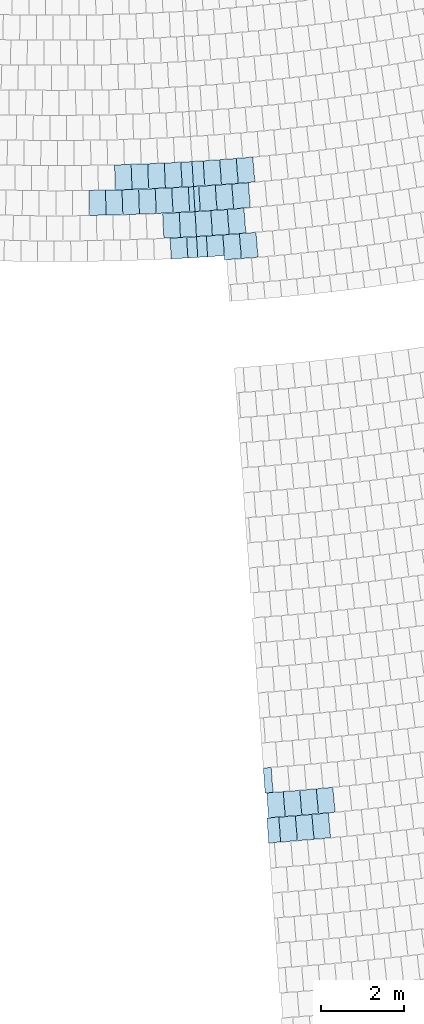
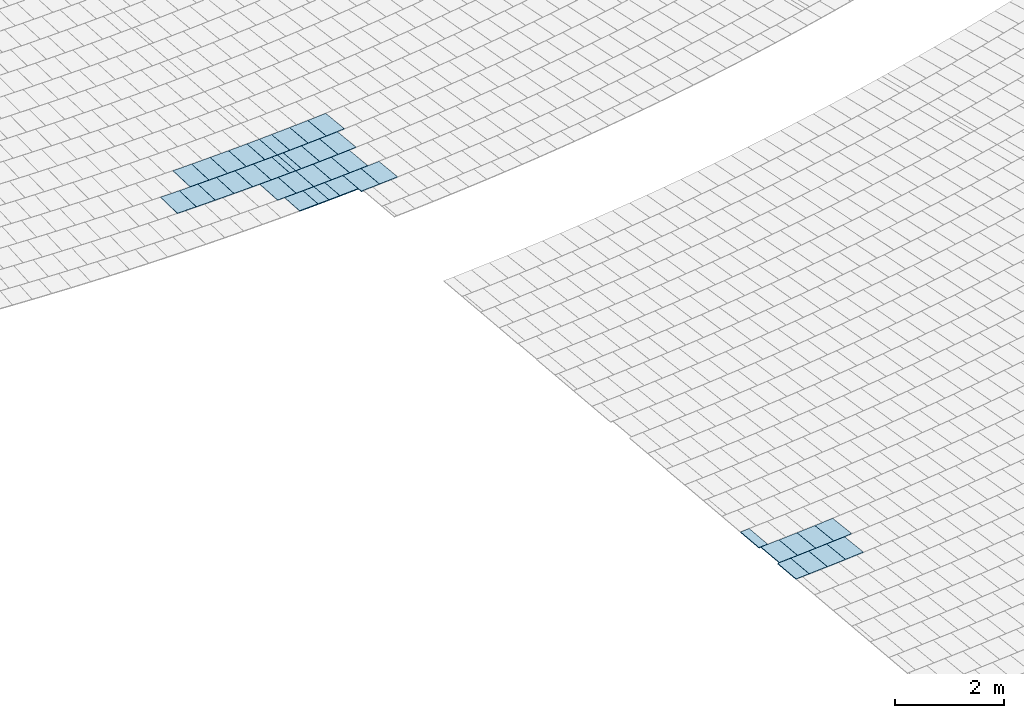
# One storey, part 39 of 438: 40 slabs.
"""IFC2X3 building model written with IfcOpenShell, lengths in millimetres."""

from ifc_helpers import new_model, entity, si_unit, converted_unit, derived_unit, direction, frame, frame_2d, origin, place, context, subcontext, project, spatial, polyline, rectangle, outline, extrude, material, layer, layer_set, layer_usage, type_object, element, save


model = new_model("IFC2X3")

# Units and contexts
model_context = context("Model", 3, precision=0.01, world=origin(), true_north=direction((6.123031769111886e-17, 1.0)))
body_context = subcontext(model_context, "Body", "Model", "MODEL_VIEW")
ifc_project = project(units=[si_unit("LENGTHUNIT", "METRE", prefix="MILLI"), si_unit("AREAUNIT", "SQUARE_METRE"), si_unit("VOLUMEUNIT", "CUBIC_METRE"), converted_unit("PLANEANGLEUNIT", "DEGREE", entity("IfcRatioMeasure", 0.017453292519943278), si_unit("PLANEANGLEUNIT", "RADIAN"), dimensions=[0, 0, 0, 0, 0, 0, 0]), si_unit("MASSUNIT", "GRAM", prefix="KILO"), derived_unit("MASSDENSITYUNIT", [(si_unit("MASSUNIT", "GRAM", prefix="KILO"), 1), (si_unit("LENGTHUNIT", "METRE"), -3)]), derived_unit("MOMENTOFINERTIAUNIT", [(si_unit("LENGTHUNIT", "METRE"), 4)]), si_unit("TIMEUNIT", "SECOND"), si_unit("FREQUENCYUNIT", "HERTZ"), si_unit("THERMODYNAMICTEMPERATUREUNIT", "DEGREE_CELSIUS"), derived_unit("THERMALTRANSMITTANCEUNIT", [(si_unit("MASSUNIT", "GRAM", prefix="KILO"), 1), (si_unit("THERMODYNAMICTEMPERATUREUNIT", "KELVIN"), -1), (si_unit("TIMEUNIT", "SECOND"), -3)]), derived_unit("THERMALCONDUCTANCEUNIT", [(si_unit("MASSUNIT", "GRAM", prefix="KILO"), 1), (si_unit("LENGTHUNIT", "METRE"), 1), (si_unit("THERMODYNAMICTEMPERATUREUNIT", "KELVIN"), -1), (si_unit("TIMEUNIT", "SECOND"), -3)]), derived_unit("VOLUMETRICFLOWRATEUNIT", [(si_unit("LENGTHUNIT", "METRE"), 3), (si_unit("TIMEUNIT", "SECOND"), -1)]), derived_unit("MASSFLOWRATEUNIT", [(si_unit("MASSUNIT", "GRAM", prefix="KILO"), 1), (si_unit("TIMEUNIT", "SECOND"), -1)]), derived_unit("ROTATIONALFREQUENCYUNIT", [(si_unit("TIMEUNIT", "SECOND"), -1)]), si_unit("ELECTRICCURRENTUNIT", "AMPERE"), si_unit("ELECTRICVOLTAGEUNIT", "VOLT"), si_unit("POWERUNIT", "WATT"), converted_unit("FORCEUNIT", "KIP", entity("IfcRatioMeasure", 2.088543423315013e-05), si_unit("FORCEUNIT", "NEWTON"), dimensions=[1, 1, -2, 0, 0, 0, 0]), si_unit("ILLUMINANCEUNIT", "LUX"), si_unit("LUMINOUSFLUXUNIT", "LUMEN"), si_unit("LUMINOUSINTENSITYUNIT", "CANDELA"), derived_unit("USERDEFINED", [(si_unit("MASSUNIT", "GRAM", prefix="KILO"), -1), (si_unit("LENGTHUNIT", "METRE"), -2), (si_unit("TIMEUNIT", "SECOND"), 3), (si_unit("LUMINOUSFLUXUNIT", "LUMEN"), 1)]), derived_unit("USERDEFINED", [(si_unit("MASSUNIT", "GRAM", prefix="KILO"), 1), (si_unit("LENGTHUNIT", "METRE"), 3), (si_unit("TIMEUNIT", "SECOND"), -3), (si_unit("ELECTRICCURRENTUNIT", "AMPERE"), -2)]), derived_unit("USERDEFINED", [(si_unit("LENGTHUNIT", "METRE"), 2), (si_unit("TIMEUNIT", "SECOND"), -2)]), derived_unit("SOUNDPOWERUNIT", [(si_unit("MASSUNIT", "GRAM", prefix="KILO"), 1), (si_unit("LENGTHUNIT", "METRE"), 2), (si_unit("TIMEUNIT", "SECOND"), -3)]), derived_unit("SOUNDPRESSUREUNIT", [(si_unit("MASSUNIT", "GRAM", prefix="KILO"), 1), (si_unit("LENGTHUNIT", "METRE"), -1), (si_unit("TIMEUNIT", "SECOND"), -2)]), derived_unit("LINEARVELOCITYUNIT", [(si_unit("LENGTHUNIT", "METRE"), 1), (si_unit("TIMEUNIT", "SECOND"), -1)]), si_unit("PRESSUREUNIT", "PASCAL"), derived_unit("USERDEFINED", [(si_unit("LENGTHUNIT", "METRE"), -2), (si_unit("MASSUNIT", "GRAM", prefix="KILO"), 1), (si_unit("TIMEUNIT", "SECOND"), -2)]), derived_unit("LINEARFORCEUNIT", [(si_unit("MASSUNIT", "GRAM", prefix="KILO"), 1), (si_unit("LENGTHUNIT", "METRE"), 1), (si_unit("TIMEUNIT", "SECOND"), -2), (si_unit("LENGTHUNIT", "METRE"), -1)]), derived_unit("PLANARFORCEUNIT", [(si_unit("MASSUNIT", "GRAM", prefix="KILO"), 1), (si_unit("LENGTHUNIT", "METRE"), 1), (si_unit("TIMEUNIT", "SECOND"), -2), (si_unit("LENGTHUNIT", "METRE"), -2)]), derived_unit("SPECIFICHEATCAPACITYUNIT", [(si_unit("LENGTHUNIT", "METRE"), 2), (si_unit("TIMEUNIT", "SECOND"), -2), (si_unit("THERMODYNAMICTEMPERATUREUNIT", "KELVIN"), -1)]), derived_unit("VAPORPERMEABILITYUNIT", [(si_unit("TIMEUNIT", "SECOND"), 1), (si_unit("LENGTHUNIT", "METRE"), -1)]), derived_unit("DYNAMICVISCOSITYUNIT", [(si_unit("MASSUNIT", "GRAM", prefix="KILO"), 1), (si_unit("LENGTHUNIT", "METRE"), -1), (si_unit("TIMEUNIT", "SECOND"), -1)]), derived_unit("THERMALEXPANSIONCOEFFICIENTUNIT", [(si_unit("THERMODYNAMICTEMPERATUREUNIT", "KELVIN"), -1)])], contexts=[model_context])

# Site, building, storey
site_placement = place(None, frame((0.0, 0.0, 0.0), z_axis=(0.0, 0.0, 1.0), x_axis=(0.8191520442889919, 0.5735764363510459, 0.0)))
site = spatial("IfcSite", under=ifc_project, at=site_placement, Name="Default", CompositionType="ELEMENT")
building_placement = place(site_placement, origin())
building = spatial("IfcBuilding", under=site, at=building_placement, CompositionType="ELEMENT")
storey_placement = place(building_placement, origin())
storey = spatial("IfcBuildingStorey", under=building, at=storey_placement, Name="PLAN", CompositionType="ELEMENT", Elevation=0.0)

# Slabs
ifc_material = material(Name="Paint-01")
ifc_layer = layer(ifc_material, 20.00000000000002)
ifc_layer_set = layer_set([ifc_layer], Name="Floor:Slab-179:1000")
ifc_layer_usage = layer_usage(ifc_layer_set, "AXIS3", "POSITIVE", 0.0)
slab_type = type_object("IfcSlabType", Name="Floor:Slab-179:1000", PredefinedType="FLOOR", material=ifc_layer_set)
slab_1_placement = place(storey_placement, origin())
element("IfcSlab", 1, at=slab_1_placement, inside=storey, type_object=slab_type, material=ifc_layer_usage, Name="Floor:Slab-179:1000", ObjectType="Floor:Slab-179:1000", PredefinedType="FLOOR", context=body_context, shape_type="SweptSolid", body=[
    extrude(outline(polyline([(-300.00000076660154, -143.99511928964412), (299.99999923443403, -143.9951192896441), (300.00000076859, 144.3664122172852), (-299.9999992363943, 143.62382636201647), (-300.00000076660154, -143.99511928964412)])), frame((-76675.12581954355, -129045.55431119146, 20.0), z_axis=(0.0, 0.0, -1.0), x_axis=(-0.512006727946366, -0.8589814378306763, 0.0)), (0.0, 0.0, 1.0), 20.00000000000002),
])
slab_2_placement = place(storey_placement, origin())
element("IfcSlab", 2, at=slab_2_placement, inside=storey, type_object=slab_type, material=ifc_layer_usage, Name="Floor:Slab-179:1000", ObjectType="Floor:Slab-179:1000", PredefinedType="FLOOR", context=body_context, shape_type="SweptSolid", body=[
    extrude(outline(polyline([(-300.0000010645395, -200.00000294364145), (299.9999989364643, -200.0000029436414), (300.000001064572, 200.0000029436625), (-299.9999989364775, 200.00000294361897), (-300.0000010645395, -200.00000294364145)])), frame((-76377.60611850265, -129221.57358170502, 20.0), z_axis=(0.0, 0.0, -1.0), x_axis=(-0.5071452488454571, -0.8618606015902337, 0.0)), (0.0, 0.0, 1.0), 20.000000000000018),
])
slab_3_placement = place(storey_placement, origin())
element("IfcSlab", 3, at=slab_3_placement, inside=storey, type_object=slab_type, material=ifc_layer_usage, Name="Floor:Slab-179:1000", ObjectType="Floor:Slab-179:1000", PredefinedType="FLOOR", context=body_context, shape_type="SweptSolid", body=[
    extrude(outline(polyline([(-300.00000106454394, -200.00000294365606), (299.9999989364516, -200.00000294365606), (300.00000106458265, 200.00000294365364), (-299.9999989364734, 200.0000029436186), (-300.00000106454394, -200.00000294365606)])), frame((-76030.82824206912, -129424.31164544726, 20.0), z_axis=(0.0, 0.0, -1.0), x_axis=(-0.5022675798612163, -0.8647122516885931, 0.0)), (0.0, 0.0, 1.0), 20.00000000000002),
])
slab_4_placement = place(storey_placement, origin())
element("IfcSlab", 4, at=slab_4_placement, inside=storey, type_object=slab_type, material=ifc_layer_usage, Name="Floor:Slab-179:1000", ObjectType="Floor:Slab-179:1000", PredefinedType="FLOOR", context=body_context, shape_type="SweptSolid", body=[
    extrude(outline(polyline([(-300.00000106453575, -200.00000294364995), (299.99999893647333, -200.00000294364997), (300.000001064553, 200.00000294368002), (-299.9999989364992, 200.00000294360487), (-300.00000106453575, -200.00000294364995)])), frame((-75682.91041626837, -129625.08715332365, 20.0), z_axis=(0.0, 0.0, -1.0), x_axis=(-0.49737387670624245, -0.8675362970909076, 0.0)), (0.0, 0.0, 1.0), 20.00000000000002),
])
slab_5_placement = place(storey_placement, origin())
element("IfcSlab", 5, at=slab_5_placement, inside=storey, type_object=slab_type, material=ifc_layer_usage, Name="Floor:Slab-179:1000", ObjectType="Floor:Slab-179:1000", PredefinedType="FLOOR", context=body_context, shape_type="SweptSolid", body=[
    extrude(outline(polyline([(-300.0000010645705, -200.00000294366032), (299.99999893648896, -200.00000294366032), (300.0000010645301, 200.0000029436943), (-299.99999893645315, 200.0000029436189), (-300.0000010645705, -200.00000294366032)])), frame((-76282.13732261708, -128575.28472836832, 20.0), z_axis=(0.0, 0.0, -1.0), x_axis=(-0.5101436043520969, -0.8600892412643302, 0.0)), (0.0, 0.0, 1.0), 20.00000000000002),
])
slab_6_placement = place(storey_placement, origin())
element("IfcSlab", 6, at=slab_6_placement, inside=storey, type_object=slab_type, material=ifc_layer_usage, Name="Floor:Slab-179:1000", ObjectType="Floor:Slab-179:1000", PredefinedType="FLOOR", context=body_context, shape_type="SweptSolid", body=[
    extrude(rectangle(XDim=599.9999621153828, YDim=399.99998063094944, at=frame_2d((7.503331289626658e-12, -4.334310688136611e-12), x_axis=(1.0, 0.0))), frame((-75588.7493896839, -128981.31093036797, 20.0), z_axis=(0.0, 0.0, -1.0), x_axis=(-0.5000000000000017, -0.8660254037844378, 0.0)), (0.0, 0.0, 1.0), 20.000000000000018),
])
slab_7_placement = place(storey_placement, origin())
element("IfcSlab", 7, at=slab_7_placement, inside=storey, type_object=slab_type, material=ifc_layer_usage, Name="Floor:Slab-179:1000", ObjectType="Floor:Slab-179:1000", PredefinedType="FLOOR", context=body_context, shape_type="SweptSolid", body=[
    extrude(outline(polyline([(-300.0000010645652, -200.00000294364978), (299.9999989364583, -200.00000294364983), (300.0000010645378, 200.00000294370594), (-299.99999893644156, 200.00000294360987), (-300.0000010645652, -200.00000294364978)])), frame((-75936.0500552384, -128779.2281936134, 20.0), z_axis=(0.0, 0.0, -1.0), x_axis=(-0.5052338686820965, -0.8629824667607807, 0.0)), (0.0, 0.0, 1.0), 20.00000000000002),
])
slab_8_placement = place(storey_placement, origin())
element("IfcSlab", 8, at=slab_8_placement, inside=storey, type_object=slab_type, material=ifc_layer_usage, Name="Floor:Slab-179:1000", ObjectType="Floor:Slab-179:1000", PredefinedType="FLOOR", context=body_context, shape_type="SweptSolid", body=[
    extrude(outline(polyline([(-300.00000106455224, -200.00000294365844), (299.99999893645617, -200.00000294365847), (300.00000106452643, 200.00000294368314), (-299.99999893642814, 200.00000294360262), (-300.00000106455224, -200.00000294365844)])), frame((-75240.41697558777, -129181.18181338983, 20.0), z_axis=(0.0, 0.0, -1.0), x_axis=(-0.49536533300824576, -0.8686847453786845, 0.0)), (0.0, 0.0, 1.0), 20.00000000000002),
])
slab_9_placement = place(storey_placement, origin())
element("IfcSlab", 9, at=slab_9_placement, inside=storey, type_object=slab_type, material=ifc_layer_usage, Name="Floor:Slab-179:1000", ObjectType="Floor:Slab-179:1000", PredefinedType="FLOOR", context=body_context, shape_type="SweptSolid", body=[
    extrude(outline(polyline([(-300.0, -95.18390322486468), (300.0, -95.1839032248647), (300.0, 95.14255445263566), (-300.0, 95.22525199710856), (-300.0, -95.18390322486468)])), frame((-76096.27923104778, -127982.0288969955, 20.0), z_axis=(0.0, 0.0, -1.0), x_axis=(-0.5131877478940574, -0.8582763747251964, 0.0)), (0.0, 0.0, 1.0), 20.000000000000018),
])
slab_10_placement = place(storey_placement, origin())
element("IfcSlab", 10, at=slab_10_placement, inside=storey, type_object=slab_type, material=ifc_layer_usage, Name="Floor:Slab-179:1000", ObjectType="Floor:Slab-179:1000", PredefinedType="FLOOR", context=body_context, shape_type="SweptSolid", body=[
    extrude(outline(polyline([(-300.0, -200.00000294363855), (299.9999976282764, -200.00000294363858), (300.0, 200.0000029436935), (-299.9999976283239, 200.00000294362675), (-300.0, -200.00000294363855)])), frame((-68793.4925424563, -115203.38254930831, 520.0), z_axis=(0.0, 0.0, -1.0), x_axis=(-0.5160663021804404, -0.856548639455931, 0.0)), (0.0, 0.0, 1.0), 20.000000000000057),
])
slab_11_placement = place(storey_placement, origin())
element("IfcSlab", 11, at=slab_11_placement, inside=storey, type_object=slab_type, material=ifc_layer_usage, Name="Floor:Slab-179:1000", ObjectType="Floor:Slab-179:1000", PredefinedType="FLOOR", context=body_context, shape_type="SweptSolid", body=[
    extrude(outline(polyline([(-300.0, -200.00000294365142), (299.99999762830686, -200.00000294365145), (300.0, 200.00000294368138), (-299.99999762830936, 200.0000029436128), (-300.0, -200.00000294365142)])), frame((-68101.50850288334, -115613.45377161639, 520.0), z_axis=(0.0, 0.0, -1.0), x_axis=(-0.5035235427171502, -0.8639815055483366, 0.0)), (0.0, 0.0, 1.0), 20.000000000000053),
])
slab_12_placement = place(storey_placement, origin())
element("IfcSlab", 12, at=slab_12_placement, inside=storey, type_object=slab_type, material=ifc_layer_usage, Name="Floor:Slab-179:1000", ObjectType="Floor:Slab-179:1000", PredefinedType="FLOOR", context=body_context, shape_type="SweptSolid", body=[
    extrude(outline(polyline([(-300.0, -200.00000294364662), (299.9999976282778, -200.00000294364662), (300.0, 200.00000294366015), (-299.99999762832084, 200.00000294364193), (-300.0, -200.00000294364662)])), frame((-68448.24787318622, -115409.67929414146, 520.0), z_axis=(0.0, 0.0, -1.0), x_axis=(-0.5098084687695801, -0.8602879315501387, 0.0)), (0.0, 0.0, 1.0), 19.99999999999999),
])
slab_13_placement = place(storey_placement, origin())
element("IfcSlab", 13, at=slab_13_placement, inside=storey, type_object=slab_type, material=ifc_layer_usage, Name="Floor:Slab-179:1000", ObjectType="Floor:Slab-179:1000", PredefinedType="FLOOR", context=body_context, shape_type="SweptSolid", body=[
    extrude(outline(polyline([(-300.0, -134.9991272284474), (299.99999797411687, -134.99912722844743), (300.0, 134.9991272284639), (-299.9999979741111, 134.99912722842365), (-300.0, -134.9991272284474)])), frame((-69081.79376765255, -115028.524243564, 520.0), z_axis=(0.0, 0.0, -1.0), x_axis=(-0.5222967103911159, -0.8527638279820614, 0.0)), (0.0, 0.0, 1.0), 20.000000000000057),
])
slab_14_placement = place(storey_placement, origin())
element("IfcSlab", 14, at=slab_14_placement, inside=storey, type_object=slab_type, material=ifc_layer_usage, Name="Floor:Slab-179:1000", ObjectType="Floor:Slab-179:1000", PredefinedType="FLOOR", context=body_context, shape_type="SweptSolid", body=[
    extrude(outline(polyline([(-300.0, -200.00000294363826), (299.9999976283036, -200.00000294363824), (300.0, 200.00000294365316), (-299.99999762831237, 200.0000029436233), (-300.0, -200.00000294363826)])), frame((-68543.36073796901, -116055.92908802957, 520.0), z_axis=(0.0, 0.0, -1.0), x_axis=(-0.5059837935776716, -0.862542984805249, 0.0)), (0.0, 0.0, 1.0), 19.99999999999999),
])
slab_15_placement = place(storey_placement, origin())
element("IfcSlab", 15, at=slab_15_placement, inside=storey, type_object=slab_type, material=ifc_layer_usage, Name="Floor:Slab-179:1000", ObjectType="Floor:Slab-179:1000", PredefinedType="FLOOR", context=body_context, shape_type="SweptSolid", body=[
    extrude(outline(polyline([(-300.0, -200.0000029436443), (299.9999976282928, -200.0000029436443), (300.0, 200.0000029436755), (-299.9999976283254, 200.0000029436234), (-300.0, -200.0000029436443)])), frame((-68889.50561548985, -115851.19312449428, 520.0), z_axis=(0.0, 0.0, -1.0), x_axis=(-0.5121898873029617, -0.8588722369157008, 0.0)), (0.0, 0.0, 1.0), 20.000000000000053),
])
slab_16_placement = place(storey_placement, origin())
element("IfcSlab", 16, at=slab_16_placement, inside=storey, type_object=slab_type, material=ifc_layer_usage, Name="Floor:Slab-179:1000", ObjectType="Floor:Slab-179:1000", PredefinedType="FLOOR", context=body_context, shape_type="SweptSolid", body=[
    extrude(outline(polyline([(-299.9999990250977, -62.5494936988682), (299.9999983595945, -62.54949369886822), (299.99999902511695, 62.54949369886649), (-299.99999835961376, 62.549493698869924), (-299.9999990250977, -62.5494936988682)])), frame((-69460.29684831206, -115506.35624545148, 520.0), z_axis=(0.0, 0.0, -1.0), x_axis=(-0.524521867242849, -0.851396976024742, 0.0)), (0.0, 0.0, 1.0), 19.99999999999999),
])
slab_17_placement = place(storey_placement, origin())
element("IfcSlab", 17, at=slab_17_placement, inside=storey, type_object=slab_type, material=ifc_layer_usage, Name="Floor:Slab-179:1000", ObjectType="Floor:Slab-179:1000", PredefinedType="FLOOR", context=body_context, shape_type="SweptSolid", body=[
    extrude(outline(polyline([(-300.0, -200.0000029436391), (299.9999976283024, -200.0000029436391), (300.0, 200.0000029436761), (-299.9999976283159, 200.0000029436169), (-300.0, -200.0000029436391)])), frame((-69234.16527465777, -115643.96665335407, 520.0), z_axis=(0.0, 0.0, -1.0), x_axis=(-0.5183693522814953, -0.8551568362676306, 0.0)), (0.0, 0.0, 1.0), 20.000000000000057),
])
slab_18_placement = place(storey_placement, origin())
element("IfcSlab", 18, at=slab_18_placement, inside=storey, type_object=slab_type, material=ifc_layer_usage, Name="Floor:Slab-179:1000", ObjectType="Floor:Slab-179:1000", PredefinedType="FLOOR", context=body_context, shape_type="SweptSolid", body=[
    extrude(outline(polyline([(-300.0, -200.000002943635), (299.9999976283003, -200.00000294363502), (300.0, 200.00000294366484), (-299.9999976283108, 200.00000294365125), (-300.0, -200.000002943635)])), frame((-68984.97281872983, -116498.03140686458, 520.0), z_axis=(0.0, 0.0, -1.0), x_axis=(-0.5083869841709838, -0.8611287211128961, 0.0)), (0.0, 0.0, 1.0), 19.99999999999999),
])
slab_19_placement = place(storey_placement, origin())
element("IfcSlab", 19, at=slab_19_placement, inside=storey, type_object=slab_type, material=ifc_layer_usage, Name="Floor:Slab-179:1000", ObjectType="Floor:Slab-179:1000", PredefinedType="FLOOR", context=body_context, shape_type="SweptSolid", body=[
    extrude(outline(polyline([(-300.0, -200.00000294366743), (299.99999762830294, -200.0000029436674), (300.0, 200.00000294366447), (-299.9999976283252, 200.00000294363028), (-300.0, -200.00000294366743)])), frame((-69330.53344993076, -116292.35637899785, 520.0), z_axis=(0.0, 0.0, -1.0), x_axis=(-0.5145161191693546, -0.8574807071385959, 0.0)), (0.0, 0.0, 1.0), 20.000000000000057),
])
slab_20_placement = place(storey_placement, origin())
element("IfcSlab", 20, at=slab_20_placement, inside=storey, type_object=slab_type, material=ifc_layer_usage, Name="Floor:Slab-179:1000", ObjectType="Floor:Slab-179:1000", PredefinedType="FLOOR", context=body_context, shape_type="SweptSolid", body=[
    extrude(outline(polyline([(-300.0, -190.89232225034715), (299.999997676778, -190.89232225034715), (300.0, 190.89232225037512), (-299.999997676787, 190.89232225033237), (-300.0, -190.89232225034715)])), frame((-69666.84225983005, -116088.96347739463, 520.0), z_axis=(0.0, 0.0, -1.0), x_axis=(-0.5206190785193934, -0.8537890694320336, 0.0)), (0.0, 0.0, 1.0), 20.000000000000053),
])
slab_21_placement = place(storey_placement, origin())
element("IfcSlab", 21, at=slab_21_placement, inside=storey, type_object=slab_type, material=ifc_layer_usage, Name="Floor:Slab-179:1000", ObjectType="Floor:Slab-179:1000", PredefinedType="FLOOR", context=body_context, shape_type="SweptSolid", body=[
    extrude(outline(polyline([(-300.0, -200.00000294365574), (299.9999976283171, -200.00000294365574), (300.0, 200.00000294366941), (-299.99999762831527, 200.00000294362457), (-300.0, -200.00000294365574)])), frame((-69079.91583053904, -117143.92625355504, 520.0), z_axis=(0.0, 0.0, -1.0), x_axis=(-0.5046556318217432, -0.8633207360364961, 0.0)), (0.0, 0.0, 1.0), 20.000000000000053),
])
slab_22_placement = place(storey_placement, origin())
element("IfcSlab", 22, at=slab_22_placement, inside=storey, type_object=slab_type, material=ifc_layer_usage, Name="Floor:Slab-179:1000", ObjectType="Floor:Slab-179:1000", PredefinedType="FLOOR", context=body_context, shape_type="SweptSolid", body=[
    extrude(outline(polyline([(-300.0, -200.0000029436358), (299.9999976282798, -200.00000294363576), (300.0, 200.00000294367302), (-299.9999976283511, 200.0000029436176), (-300.0, -200.0000029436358)])), frame((-69426.35144072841, -116939.7733424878, 520.0), z_axis=(0.0, 0.0, -1.0), x_axis=(-0.5107350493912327, -0.8597381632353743, 0.0)), (0.0, 0.0, 1.0), 20.000000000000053),
])
slab_23_placement = place(storey_placement, origin())
element("IfcSlab", 23, at=slab_23_placement, inside=storey, type_object=slab_type, material=ifc_layer_usage, Name="Floor:Slab-179:1000", ObjectType="Floor:Slab-179:1000", PredefinedType="FLOOR", context=body_context, shape_type="SweptSolid", body=[
    extrude(outline(polyline([(-250.0, -200.00000294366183), (249.9999976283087, -200.0000029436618), (250.0, 200.00000294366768), (-249.99999762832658, 200.0000029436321), (-250.0, -200.00000294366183)])), frame((-69745.49837853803, -116690.37526867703, 520.0), z_axis=(0.0, 0.0, -1.0), x_axis=(-0.5167890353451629, -0.8561127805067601, 0.0)), (0.0, 0.0, 1.0), 19.99999999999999),
])
slab_24_placement = place(storey_placement, origin())
element("IfcSlab", 24, at=slab_24_placement, inside=storey, type_object=slab_type, material=ifc_layer_usage, Name="Floor:Slab-179:1000", ObjectType="Floor:Slab-179:1000", PredefinedType="FLOOR", context=body_context, shape_type="SweptSolid", body=[
    extrude(outline(polyline([(-249.99999932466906, -118.85163078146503), (249.99999806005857, -118.85163078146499), (249.99999932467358, 118.85163078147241), (-249.99999806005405, 118.85163078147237), (-249.99999932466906, -118.85163078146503)])), frame((-70019.54245101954, -116523.96276938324, 520.0), z_axis=(0.0, 0.0, -1.0), x_axis=(-0.5228172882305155, -0.8524447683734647, 0.0)), (0.0, 0.0, 1.0), 20.000000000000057),
])
slab_25_placement = place(storey_placement, origin())
element("IfcSlab", 25, at=slab_25_placement, inside=storey, type_object=slab_type, material=ifc_layer_usage, Name="Floor:Slab-179:1000", ObjectType="Floor:Slab-179:1000", PredefinedType="FLOOR", context=body_context, shape_type="SweptSolid", body=[
    extrude(outline(polyline([(-299.99999762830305, -200.00000294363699), (300.0, -200.00000294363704), (299.99999762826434, 200.00000294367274), (-300.0, 200.00000294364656), (-299.99999762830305, -200.00000294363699)])), frame((-70614.39979745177, -114057.31500119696, 520.0), z_axis=(0.0, 0.0, -1.0), x_axis=(-0.5490716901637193, -0.8357752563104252, 0.0)), (0.0, 0.0, 1.0), 19.999999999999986),
])
slab_26_placement = place(storey_placement, origin())
element("IfcSlab", 26, at=slab_26_placement, inside=storey, type_object=slab_type, material=ifc_layer_usage, Name="Floor:Slab-179:1000", ObjectType="Floor:Slab-179:1000", PredefinedType="FLOOR", context=body_context, shape_type="SweptSolid", body=[
    extrude(outline(polyline([(-299.9999976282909, -200.00000294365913), (300.0, -200.00000294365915), (299.99999762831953, 200.00000294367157), (-300.0, 200.0000029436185), (-299.9999976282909, -200.00000294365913)])), frame((-70277.46141765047, -114276.91636003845, 520.0), z_axis=(0.0, 0.0, -1.0), x_axis=(-0.5429644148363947, -0.8397557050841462, 0.0)), (0.0, 0.0, 1.0), 19.99999999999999),
])
slab_27_placement = place(storey_placement, origin())
element("IfcSlab", 27, at=slab_27_placement, inside=storey, type_object=slab_type, material=ifc_layer_usage, Name="Floor:Slab-179:1000", ObjectType="Floor:Slab-179:1000", PredefinedType="FLOOR", context=body_context, shape_type="SweptSolid", body=[
    extrude(outline(polyline([(-299.9999976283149, -200.00000294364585), (300.0, -200.00000294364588), (299.9999976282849, 200.0000029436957), (-300.0, 200.00000294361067), (-299.9999976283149, -200.00000294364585)])), frame((-69938.9311273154, -114494.055649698, 520.0), z_axis=(0.0, 0.0, -1.0), x_axis=(-0.536828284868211, -0.8436915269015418, 0.0)), (0.0, 0.0, 1.0), 19.99999999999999),
])
slab_28_placement = place(storey_placement, origin())
element("IfcSlab", 28, at=slab_28_placement, inside=storey, type_object=slab_type, material=ifc_layer_usage, Name="Floor:Slab-179:1000", ObjectType="Floor:Slab-179:1000", PredefinedType="FLOOR", context=body_context, shape_type="SweptSolid", body=[
    extrude(outline(polyline([(-299.9999976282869, -200.0000029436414), (300.0, -200.00000294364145), (299.99999762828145, 200.00000294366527), (-300.0, 200.00000294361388), (-299.9999976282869, -200.0000029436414)])), frame((-69598.82691688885, -114708.72133078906, 520.0), z_axis=(0.0, 0.0, -1.0), x_axis=(-0.5306636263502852, -0.8475825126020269, 0.0)), (0.0, 0.0, 1.0), 20.000000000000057),
])
slab_29_placement = place(storey_placement, origin())
element("IfcSlab", 29, at=slab_29_placement, inside=storey, type_object=slab_type, material=ifc_layer_usage, Name="Floor:Slab-179:1000", ObjectType="Floor:Slab-179:1000", PredefinedType="FLOOR", context=body_context, shape_type="SweptSolid", body=[
    extrude(outline(polyline([(-299.99999797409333, -134.99912722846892), (300.0, -134.99912722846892), (299.99999797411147, 134.99912722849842), (-300.0, 134.99912722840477), (-299.99999797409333, -134.99912722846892)])), frame((-69312.51045548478, -114886.81093595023, 520.0), z_axis=(0.0, 0.0, -1.0), x_axis=(-0.5244707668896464, -0.8514284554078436, 0.0)), (0.0, 0.0, 1.0), 20.000000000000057),
])
slab_30_placement = place(storey_placement, origin())
element("IfcSlab", 30, at=slab_30_placement, inside=storey, type_object=slab_type, material=ifc_layer_usage, Name="Floor:Slab-179:1000", ObjectType="Floor:Slab-179:1000", PredefinedType="FLOOR", context=body_context, shape_type="SweptSolid", body=[
    extrude(outline(polyline([(-299.999997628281, -200.0000029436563), (300.0, -200.00000294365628), (299.9999976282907, 200.0000029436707), (-300.0, 200.0000029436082), (-299.999997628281, -200.0000029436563)])), frame((-71480.23028466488, -114207.97084017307, 520.0), z_axis=(0.0, 0.0, -1.0), x_axis=(-0.5586394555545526, -0.8294106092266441, 0.0)), (0.0, 0.0, 1.0), 20.000000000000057),
])
slab_31_placement = place(storey_placement, origin())
element("IfcSlab", 31, at=slab_31_placement, inside=storey, type_object=slab_type, material=ifc_layer_usage, Name="Floor:Slab-179:1000", ObjectType="Floor:Slab-179:1000", PredefinedType="FLOOR", context=body_context, shape_type="SweptSolid", body=[
    extrude(outline(polyline([(-299.9999976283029, -200.0000029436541), (300.0, -200.00000294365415), (299.9999976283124, 200.00000294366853), (-300.0, 200.0000029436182), (-299.9999976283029, -200.0000029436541)])), frame((-71145.86628804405, -114431.42958079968, 520.0), z_axis=(0.0, 0.0, -1.0), x_axis=(-0.5526445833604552, -0.8334170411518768, 0.0)), (0.0, 0.0, 1.0), 20.000000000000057),
])
slab_32_placement = place(storey_placement, origin())
element("IfcSlab", 32, at=slab_32_placement, inside=storey, type_object=slab_type, material=ifc_layer_usage, Name="Floor:Slab-179:1000", ObjectType="Floor:Slab-179:1000", PredefinedType="FLOOR", context=body_context, shape_type="SweptSolid", body=[
    extrude(outline(polyline([(-299.99999762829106, -200.0000029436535), (300.0, -200.00000294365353), (299.99999762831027, 200.00000294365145), (-300.0, 200.00000294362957), (-299.99999762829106, -200.0000029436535)])), frame((-70472.34818213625, -114871.08548773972, 520.0), z_axis=(0.0, 0.0, -1.0), x_axis=(-0.5405689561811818, -0.8412997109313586, 0.0)), (0.0, 0.0, 1.0), 20.000000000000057),
])
slab_33_placement = place(storey_placement, origin())
element("IfcSlab", 33, at=slab_33_placement, inside=storey, type_object=slab_type, material=ifc_layer_usage, Name="Floor:Slab-179:1000", ObjectType="Floor:Slab-179:1000", PredefinedType="FLOOR", context=body_context, shape_type="SweptSolid", body=[
    extrude(outline(polyline([(-299.9999976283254, -200.0000029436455), (300.0, -200.00000294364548), (299.99999762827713, 200.00000294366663), (-300.0, 200.00000294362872), (-299.9999976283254, -200.0000029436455)])), frame((-70809.89976490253, -114652.47162731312, 520.0), z_axis=(0.0, 0.0, -1.0), x_axis=(-0.5466209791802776, -0.8373801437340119, 0.0)), (0.0, 0.0, 1.0), 19.99999999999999),
])
slab_34_placement = place(storey_placement, origin())
element("IfcSlab", 34, at=slab_34_placement, inside=storey, type_object=slab_type, material=ifc_layer_usage, Name="Floor:Slab-179:1000", ObjectType="Floor:Slab-179:1000", PredefinedType="FLOOR", context=body_context, shape_type="SweptSolid", body=[
    extrude(outline(polyline([(-299.9999976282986, -200.00000294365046), (300.0, -200.0000029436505), (299.9999976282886, 200.00000294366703), (-300.0, 200.00000294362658), (-299.9999976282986, -200.00000294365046)])), frame((-70133.22908904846, -115087.25979634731, 520.0), z_axis=(0.0, 0.0, -1.0), x_axis=(-0.5344888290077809, -0.8451755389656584, 0.0)), (0.0, 0.0, 1.0), 20.000000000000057),
])
slab_35_placement = place(storey_placement, origin())
element("IfcSlab", 35, at=slab_35_placement, inside=storey, type_object=slab_type, material=ifc_layer_usage, Name="Floor:Slab-179:1000", ObjectType="Floor:Slab-179:1000", PredefinedType="FLOOR", context=body_context, shape_type="SweptSolid", body=[
    extrude(outline(polyline([(-299.9999983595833, -62.549493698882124), (299.99999902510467, -62.54949369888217), (299.9999983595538, 62.54949369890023), (-299.99999902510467, 62.54949369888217), (-299.9999983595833, -62.549493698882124)])), frame((-69567.57610621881, -115440.46201552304, 520.0), z_axis=(0.0, 0.0, -1.0), x_axis=(-0.5222455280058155, -0.8527951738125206, 0.0)), (0.0, 0.0, 1.0), 19.999999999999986),
])
slab_36_placement = place(storey_placement, origin())
element("IfcSlab", 36, at=slab_36_placement, inside=storey, type_object=slab_type, material=ifc_layer_usage, Name="Floor:Slab-179:1000", ObjectType="Floor:Slab-179:1000", PredefinedType="FLOOR", context=body_context, shape_type="SweptSolid", body=[
    extrude(outline(polyline([(-299.9999976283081, -200.0000029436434), (300.0, -200.0000029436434), (299.9999976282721, 200.00000294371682), (-300.0, 200.00000294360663), (-299.9999976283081, -200.0000029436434)])), frame((-69792.56011643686, -115300.9833142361, 520.0), z_axis=(0.0, 0.0, -1.0), x_axis=(-0.5283809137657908, -0.8490074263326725, 0.0)), (0.0, 0.0, 1.0), 19.99999999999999),
])
slab_37_placement = place(storey_placement, origin())
element("IfcSlab", 37, at=slab_37_placement, inside=storey, type_object=slab_type, material=ifc_layer_usage, Name="Floor:Slab-179:1000", ObjectType="Floor:Slab-179:1000", PredefinedType="FLOOR", context=body_context, shape_type="SweptSolid", body=[
    extrude(outline(polyline([(-299.9999976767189, -190.90082335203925), (300.0, -190.90082335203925), (299.9999976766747, 190.9008233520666), (-300.0, 190.90082335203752), (-299.9999976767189, -190.90082335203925)])), frame((-69993.83718470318, -115888.11313860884, 520.0), z_axis=(0.0, 0.0, -1.0), x_axis=(-0.5261437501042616, -0.8503956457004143, 0.0)), (0.0, 0.0, 1.0), 19.99999999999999),
])
slab_38_placement = place(storey_placement, origin())
element("IfcSlab", 38, at=slab_38_placement, inside=storey, type_object=slab_type, material=ifc_layer_usage, Name="Floor:Slab-179:1000", ObjectType="Floor:Slab-179:1000", PredefinedType="FLOOR", context=body_context, shape_type="SweptSolid", body=[
    extrude(outline(polyline([(-299.9999976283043, -200.00000294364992), (300.0, -200.00000294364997), (299.9999976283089, 200.00000294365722), (-300.0, 200.0000029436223), (-299.9999976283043, -200.00000294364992)])), frame((-70327.31830544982, -115680.10036846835, 520.0), z_axis=(0.0, 0.0, -1.0), x_axis=(-0.5321958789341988, -0.8466212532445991, 0.0)), (0.0, 0.0, 1.0), 19.999999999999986),
])
slab_39_placement = place(storey_placement, origin())
element("IfcSlab", 39, at=slab_39_placement, inside=storey, type_object=slab_type, material=ifc_layer_usage, Name="Floor:Slab-179:1000", ObjectType="Floor:Slab-179:1000", PredefinedType="FLOOR", context=body_context, shape_type="SweptSolid", body=[
    extrude(outline(polyline([(-249.9999976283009, -200.00000294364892), (250.0, -200.00000294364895), (249.99999762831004, 200.00000294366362), (-250.0, 200.00000294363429), (-249.9999976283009, -200.00000294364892)])), frame((-70494.70902375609, -116230.1869761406, 520.0), z_axis=(0.0, 0.0, -1.0), x_axis=(-0.5299480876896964, -0.84803008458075, 0.0)), (0.0, 0.0, 1.0), 20.000000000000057),
])
slab_40_placement = place(storey_placement, origin())
element("IfcSlab", 40, at=slab_40_placement, inside=storey, type_object=slab_type, material=ifc_layer_usage, Name="Floor:Slab-179:1000", ObjectType="Floor:Slab-179:1000", PredefinedType="FLOOR", context=body_context, shape_type="SweptSolid", body=[
    extrude(outline(polyline([(-249.99999806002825, -118.85163078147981), (249.9999993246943, -118.85163078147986), (249.99999805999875, 118.85163078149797), (-249.99999932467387, 118.85163078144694), (-249.99999806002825, -118.85163078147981)])), frame((-70222.37198333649, -116399.37861304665, 520.0), z_axis=(0.0, 0.0, -1.0), x_axis=(-0.5239508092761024, -0.8517485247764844, 0.0)), (0.0, 0.0, 1.0), 20.000000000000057),
])

save(model, "model.ifc")
